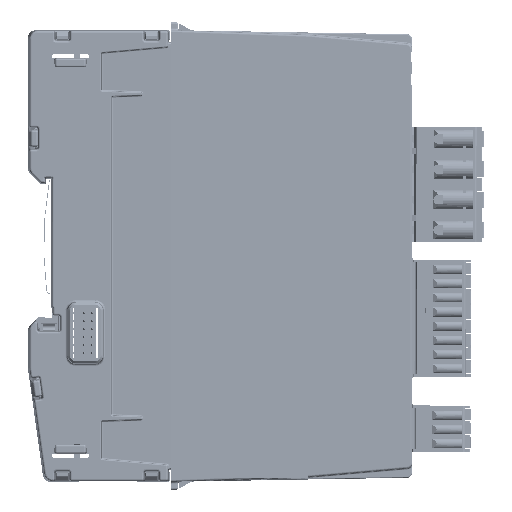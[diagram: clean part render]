
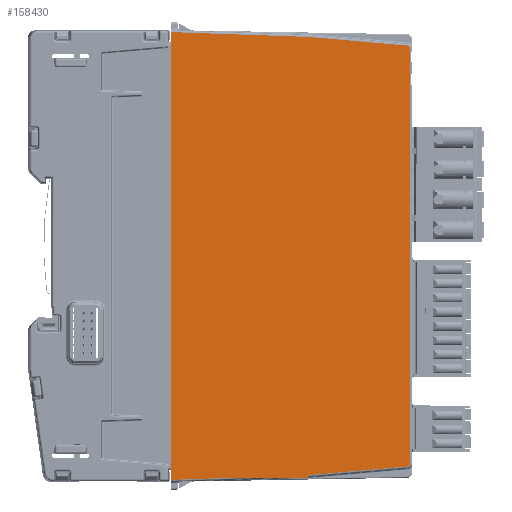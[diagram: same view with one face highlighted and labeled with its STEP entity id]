
A CAD part, left-side view. The second image highlights one B-rep face of the part: STEP entity #158430.
In plain terms, the highlighted planar face has unit normal (-1, -0.018, 0).
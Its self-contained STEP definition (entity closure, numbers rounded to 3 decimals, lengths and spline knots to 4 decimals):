
#4829=ELLIPSE('',#170585,0.0315,0.0315);
#4830=ELLIPSE('',#170586,0.0315,0.0315);
#9737=PLANE('',#170584);
#17364=FACE_OUTER_BOUND('',#26196,.T.);
#26196=EDGE_LOOP('',(#136785,#136786,#136787,#136788,#136789,#136790,#136791,
#136792,#136793,#136794,#136795,#136796,#136797));
#45437=LINE('',#269558,#61387);
#45450=LINE('',#269630,#61400);
#45507=LINE('',#269858,#61457);
#45830=LINE('',#270889,#61780);
#45831=LINE('',#270891,#61781);
#45832=LINE('',#270895,#61782);
#45833=LINE('',#270899,#61783);
#45834=LINE('',#270901,#61784);
#45835=LINE('',#270903,#61785);
#45836=LINE('',#270905,#61786);
#45837=LINE('',#270906,#61787);
#61387=VECTOR('',#207195,0.3937);
#61400=VECTOR('',#207236,0.3937);
#61457=VECTOR('',#207431,39.3701);
#61780=VECTOR('',#208172,39.3701);
#61781=VECTOR('',#208173,39.3701);
#61782=VECTOR('',#208176,39.3701);
#61783=VECTOR('',#208179,39.3701);
#61784=VECTOR('',#208180,39.3701);
#61785=VECTOR('',#208181,39.3701);
#61786=VECTOR('',#208182,39.3701);
#61787=VECTOR('',#208183,39.3701);
#75511=VERTEX_POINT('',#269554);
#75513=VERTEX_POINT('',#269557);
#75535=VERTEX_POINT('',#269625);
#75593=VERTEX_POINT('',#269857);
#75896=VERTEX_POINT('',#270888);
#75897=VERTEX_POINT('',#270890);
#75898=VERTEX_POINT('',#270892);
#75899=VERTEX_POINT('',#270894);
#75900=VERTEX_POINT('',#270896);
#75901=VERTEX_POINT('',#270898);
#75902=VERTEX_POINT('',#270900);
#75903=VERTEX_POINT('',#270902);
#75904=VERTEX_POINT('',#270904);
#95926=EDGE_CURVE('',#75511,#75513,#45437,.T.);
#95953=EDGE_CURVE('',#75513,#75535,#45450,.T.);
#96046=EDGE_CURVE('',#75593,#75535,#45507,.T.);
#96477=EDGE_CURVE('',#75511,#75896,#45830,.T.);
#96478=EDGE_CURVE('',#75896,#75897,#45831,.T.);
#96479=EDGE_CURVE('',#75897,#75898,#4829,.T.);
#96480=EDGE_CURVE('',#75898,#75899,#45832,.T.);
#96481=EDGE_CURVE('',#75899,#75900,#4830,.T.);
#96482=EDGE_CURVE('',#75900,#75901,#45833,.T.);
#96483=EDGE_CURVE('',#75901,#75902,#45834,.T.);
#96484=EDGE_CURVE('',#75902,#75903,#45835,.T.);
#96485=EDGE_CURVE('',#75904,#75903,#45836,.T.);
#96486=EDGE_CURVE('',#75904,#75593,#45837,.T.);
#136785=ORIENTED_EDGE('',*,*,#96477,.T.);
#136786=ORIENTED_EDGE('',*,*,#96478,.T.);
#136787=ORIENTED_EDGE('',*,*,#96479,.T.);
#136788=ORIENTED_EDGE('',*,*,#96480,.T.);
#136789=ORIENTED_EDGE('',*,*,#96481,.T.);
#136790=ORIENTED_EDGE('',*,*,#96482,.T.);
#136791=ORIENTED_EDGE('',*,*,#96483,.T.);
#136792=ORIENTED_EDGE('',*,*,#96484,.T.);
#136793=ORIENTED_EDGE('',*,*,#96485,.F.);
#136794=ORIENTED_EDGE('',*,*,#96486,.T.);
#136795=ORIENTED_EDGE('',*,*,#96046,.T.);
#136796=ORIENTED_EDGE('',*,*,#95953,.F.);
#136797=ORIENTED_EDGE('',*,*,#95926,.F.);
#158430=ADVANCED_FACE('',(#17364),#9737,.T.);
#170584=AXIS2_PLACEMENT_3D('',#270887,#208170,#208171);
#170585=AXIS2_PLACEMENT_3D('',#270893,#208174,#208175);
#170586=AXIS2_PLACEMENT_3D('',#270897,#208177,#208178);
#207195=DIRECTION('',(0.,0.,-1.));
#207236=DIRECTION('',(-0.017,1.,0.));
#207431=DIRECTION('',(0.017,-0.999,0.035));
#208170=DIRECTION('center_axis',(-1.,-0.017,
0.));
#208171=DIRECTION('ref_axis',(-0.017,1.,0.));
#208172=DIRECTION('',(0.017,-0.999,0.035));
#208173=DIRECTION('',(0.017,-0.996,0.087));
#208174=DIRECTION('center_axis',(-1.,-0.017,
0.));
#208175=DIRECTION('ref_axis',(0.017,-1.,0.));
#208176=DIRECTION('',(0.,0.,1.));
#208177=DIRECTION('center_axis',(-1.,-0.017,
0.));
#208178=DIRECTION('ref_axis',(0.017,-1.,0.));
#208179=DIRECTION('',(-0.017,0.996,0.087));
#208180=DIRECTION('',(-0.017,0.999,0.035));
#208181=DIRECTION('',(0.,0.,-1.));
#208182=DIRECTION('',(0.,0.,1.));
#208183=DIRECTION('',(0.,0.,-1.));
#269554=CARTESIAN_POINT('',(0.0005,-2.2096,-4.1958));
#269557=CARTESIAN_POINT('',(0.0005,-2.2096,-4.2206));
#269558=CARTESIAN_POINT('',(0.0005,-2.2096,-3.155));
#269625=CARTESIAN_POINT('',(-0.0119,-1.4997,-4.2206));
#269630=CARTESIAN_POINT('',(-0.0131,-1.4351,-4.2206));
#269857=CARTESIAN_POINT('',(-0.0227,-0.8827,-4.2421));
#269858=CARTESIAN_POINT('',(-0.0282,-0.5654,-4.2532));
#270887=CARTESIAN_POINT('Origin',(-0.0296,-0.489,
-2.0669));
#270888=CARTESIAN_POINT('',(0.0007,-2.2205,-4.1954));
#270889=CARTESIAN_POINT('',(-0.0282,-0.5654,-4.2532));
#270890=CARTESIAN_POINT('',(0.0174,-3.1772,-4.1117));
#270891=CARTESIAN_POINT('',(-0.0261,-0.6869,-4.3296));
#270892=CARTESIAN_POINT('',(0.0179,-3.2059,-4.0803));
#270893=CARTESIAN_POINT('Origin',(0.0173,-3.1744,
-4.0803));
#270894=CARTESIAN_POINT('',(0.0179,-3.2059,-0.0535));
#270895=CARTESIAN_POINT('',(0.0179,-3.2059,-0.0535));
#270896=CARTESIAN_POINT('',(0.0174,-3.1772,-0.0221));
#270897=CARTESIAN_POINT('Origin',(0.0173,-3.1744,
-0.0535));
#270898=CARTESIAN_POINT('',(0.0007,-2.2205,0.0616));
#270899=CARTESIAN_POINT('',(-0.0261,-0.6869,0.1957));
#270900=CARTESIAN_POINT('',(-0.0227,-0.8827,0.1083));
#270901=CARTESIAN_POINT('',(-0.0282,-0.5654,0.1194));
#270902=CARTESIAN_POINT('',(-0.0227,-0.8827,-0.0312));
#270903=CARTESIAN_POINT('',(-0.0227,-0.8827,0.128));
#270904=CARTESIAN_POINT('',(-0.0227,-0.8827,-4.1027));
#270905=CARTESIAN_POINT('',(-0.0227,-0.8827,-7.5932));
#270906=CARTESIAN_POINT('',(-0.0227,-0.8827,0.128));
